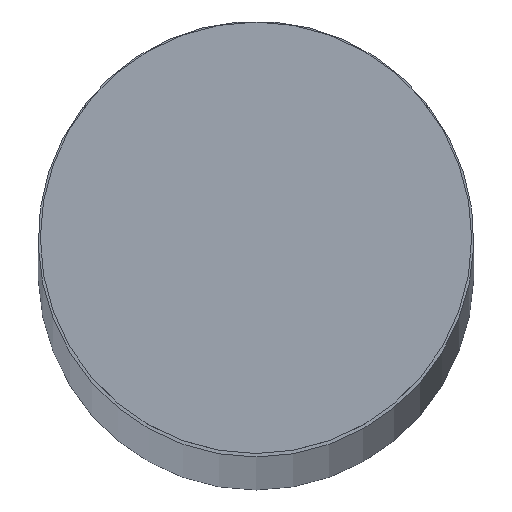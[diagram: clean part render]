
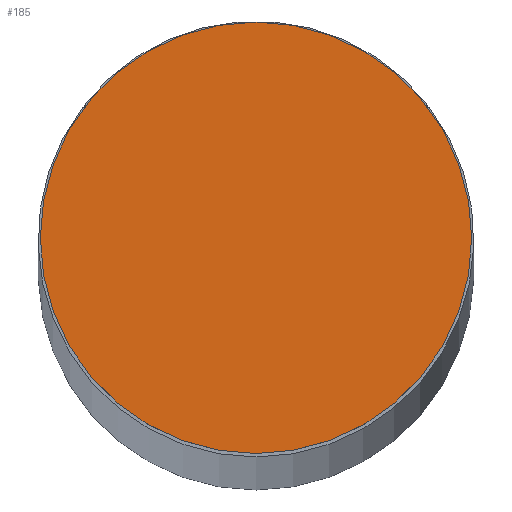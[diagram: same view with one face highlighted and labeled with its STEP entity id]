
A CAD part, top view. The second image highlights one B-rep face of the part: STEP entity #185.
In plain terms, the highlighted planar face has unit normal (0, 0, 1).
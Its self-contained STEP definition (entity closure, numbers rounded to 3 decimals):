
#38=FACE_OUTER_BOUND('',#52,.T.);
#52=EDGE_LOOP('',(#153));
#61=CIRCLE('',#226,12.575);
#96=VERTEX_POINT('',#330);
#115=EDGE_CURVE('',#96,#96,#61,.F.);
#153=ORIENTED_EDGE('',*,*,#115,.T.);
#172=PLANE('',#229);
#185=ADVANCED_FACE('',(#38),#172,.T.);
#226=AXIS2_PLACEMENT_3D('',#331,#274,#275);
#229=AXIS2_PLACEMENT_3D('',#337,#281,#282);
#274=DIRECTION('center_axis',(0.,0.,-1.));
#275=DIRECTION('ref_axis',(1.,0.,0.));
#281=DIRECTION('center_axis',(0.,0.,1.));
#282=DIRECTION('ref_axis',(1.,0.,0.));
#330=CARTESIAN_POINT('',(-12.575,0.,595.));
#331=CARTESIAN_POINT('Origin',(0.,0.,595.));
#337=CARTESIAN_POINT('Origin',(0.,0.,595.));
